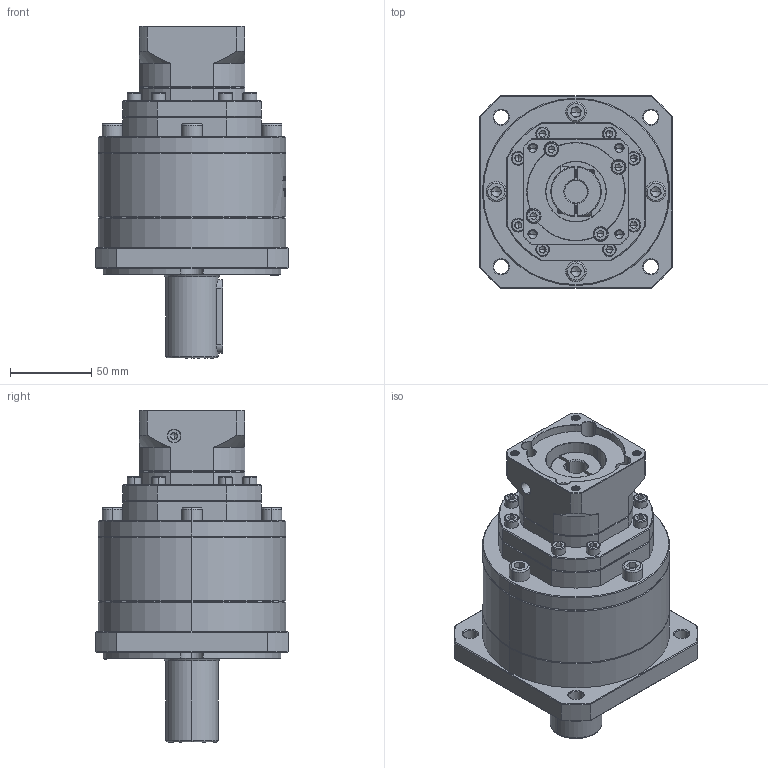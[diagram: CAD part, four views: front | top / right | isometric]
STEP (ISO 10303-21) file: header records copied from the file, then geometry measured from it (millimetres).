
FILE_DESCRIPTION (( 'STEP AP214' ), '1' );
FILE_NAME ('ZF120A-D32-L3-14-60-75-M6.step', '2023-03-07T15:56:05', ( '' ), ( 'Microsoft' ), 'SwSTEP 2.0', 'SolidWorks 2016', '' );
FILE_SCHEMA (( 'AUTOMOTIVE_DESIGN' ));
Length unit declared in the file: millimetre
Products named in the file (1): ZF120A-D32-L3-14-60-75-M6
Bounding box: 118 x 118 x 204 mm (x, y, z)
Volume: 1221168.8 mm3; surface area: 117313.9 mm2
Topology: 7 solids, 7 shells, 2087 faces, 5494 edges, 3506 vertices
Faces by surface type: plane 1002, cylinder 422, bspline 337, cone 304, torus 22
Entity records: 109899 total; most frequent: CARTESIAN_POINT 39118, ORIENTED_EDGE 10880, DIRECTION 8643, EDGE_CURVE 5440, VERTEX_POINT 3506, VECTOR 2997, LINE 2997, AXIS2_PLACEMENT_3D 2823
